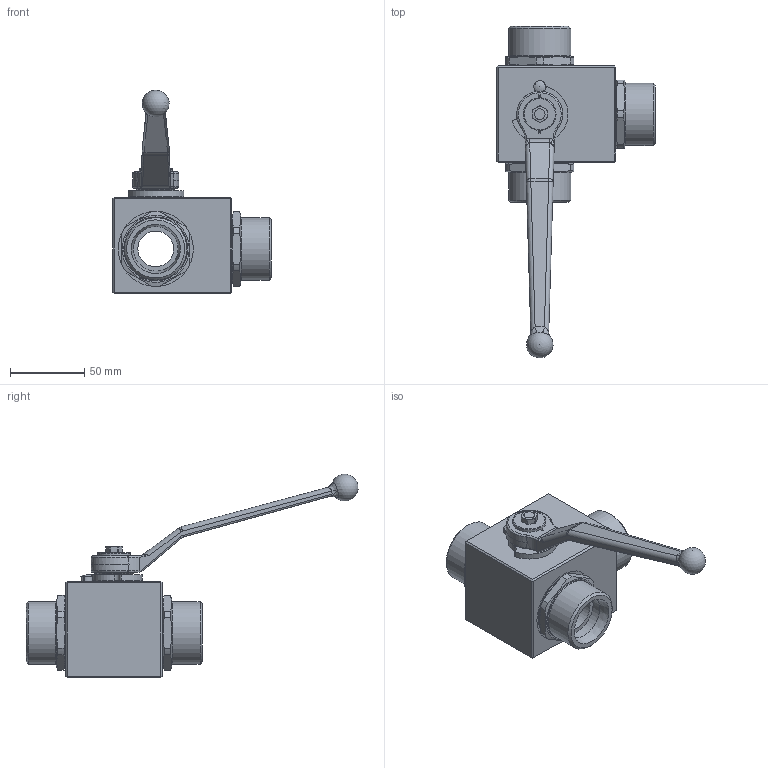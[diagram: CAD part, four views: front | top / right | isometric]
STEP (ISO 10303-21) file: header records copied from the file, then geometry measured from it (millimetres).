
FILE_DESCRIPTION( ( 'Unknown' ), '1' );
FILE_NAME( 'H:/PISTER/3D-MODELLE/BK3-Edelstahl stp/BK3-Edelst DN25 30S.stp', 'Unknown', ( 'Unknown' ), ( 'Unknown' ), 'PSStep 14.0', 'Unknown', ' ' );
FILE_SCHEMA( ( 'AUTOMOTIVE_DESIGN { 1 0 10303 214 1 1 1 1 }' ) );
Length unit declared in the file: millimetre
Products named in the file (12): Assem1; 58-28740-10-oa0; 10-025-001-oa2; 56-032-125-oa6; 09-14-002; 04-025-050-oa7; 04-025-050-oa8; 06-025-009-oa11; 58-0440-007; 58-0933-248; Griff_SW14; 01-025-084-oa12
Assembly tree (11 placements, depth 2):
  Assem1
    58-28740-10-oa0
    10-025-001-oa2
    56-032-125-oa6
    09-14-002
    04-025-050-oa7
    04-025-050-oa8
    06-025-009-oa11
    58-0440-007
    58-0933-248
    Griff_SW14
    01-025-084-oa12
Bounding box: 106.75 x 223.18 x 136.9 mm (x, y, z)
Volume: 308427.8 mm3; surface area: 82437.2 mm2
Topology: 11 solids, 11 shells, 364 faces, 910 edges, 574 vertices
Faces by surface type: plane 137, cylinder 108, cone 46, torus 38, bspline 32, sphere 3
Full cylindrical faces by diameter (mm): 5 x1, 6 x1, 6.6 x1, 7.98 x1, 20 x2, 20.2 x1, 22 x1, 24 x4, 25 x1, 30 x3, 32 x1, 39.3 x1, 41.376 x1, 41.5 x1, 42 x3, 43 x1, 43.3 x1, 45 x3, 46 x3, 50.5 x3
Entity records: 15714 total; most frequent: CARTESIAN_POINT 4744, ORIENTED_EDGE 1592, DIRECTION 1573, EDGE_CURVE 796, AXIS2_PLACEMENT_3D 649, VERTEX_POINT 537, EDGE_LOOP 467, FACE_OUTER_BOUND 409
